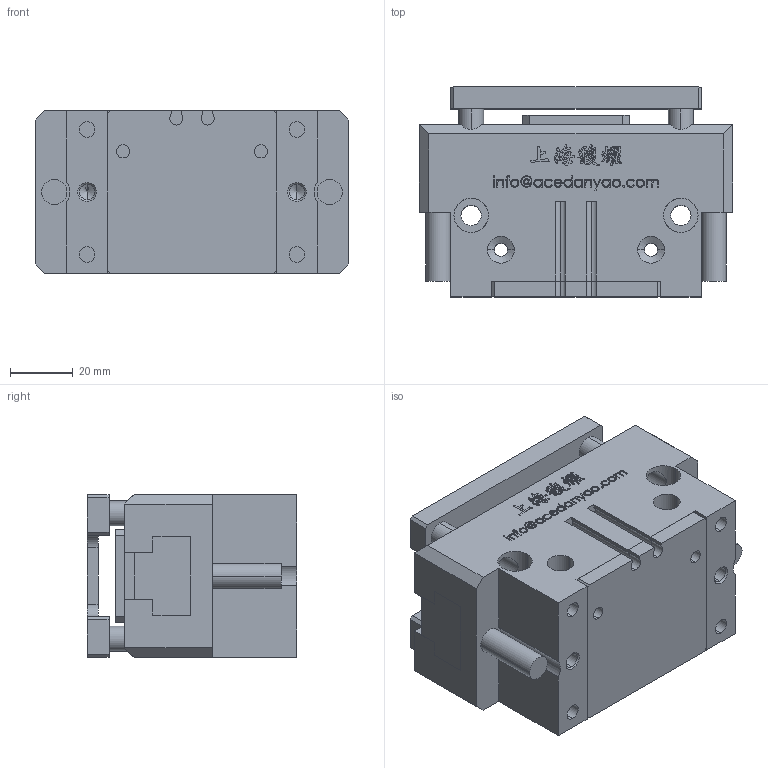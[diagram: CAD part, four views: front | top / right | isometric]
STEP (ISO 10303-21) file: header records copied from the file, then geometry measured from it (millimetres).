
FILE_DESCRIPTION (( 'STEP AP203' ), '1' );
FILE_NAME ('OPP2-100-C1-P-原始檔-組合-W106.04.19.STEP', '2017-04-19T01:56:31', ( 'DanyaoCAD' ), ( '' ), 'SwSTEP 2.0', 'SolidWorks 2016', '' );
FILE_SCHEMA (( 'CONFIG_CONTROL_DESIGN' ));
Length unit declared in the file: millimetre
Products named in the file (6): Corpo; Fondello; Coperchio; Griffa; OPP2-100-C1-P-原始檔-組合-W106.04.19; Piattello
Assembly tree (6 placements, depth 2):
  OPP2-100-C1-P-原始檔-組合-W106.04.19
    Piattello
    Corpo
    Fondello
    Coperchio
    Griffa  x2
Bounding box: 100 x 67 x 52 mm (x, y, z)
Volume: 250996 mm3; surface area: 70558.4 mm2
Topology: 6 solids, 6 shells, 1091 faces, 3015 edges, 1986 vertices
Faces by surface type: bspline 640, plane 296, cylinder 115, cone 40
Entity records: 51096 total; most frequent: CARTESIAN_POINT 27630, ORIENTED_EDGE 5852, EDGE_CURVE 2926, DIRECTION 2694, VERTEX_POINT 1938, VECTOR 1394, LINE 1394, B_SPLINE_CURVE_WITH_KNOTS 1304
